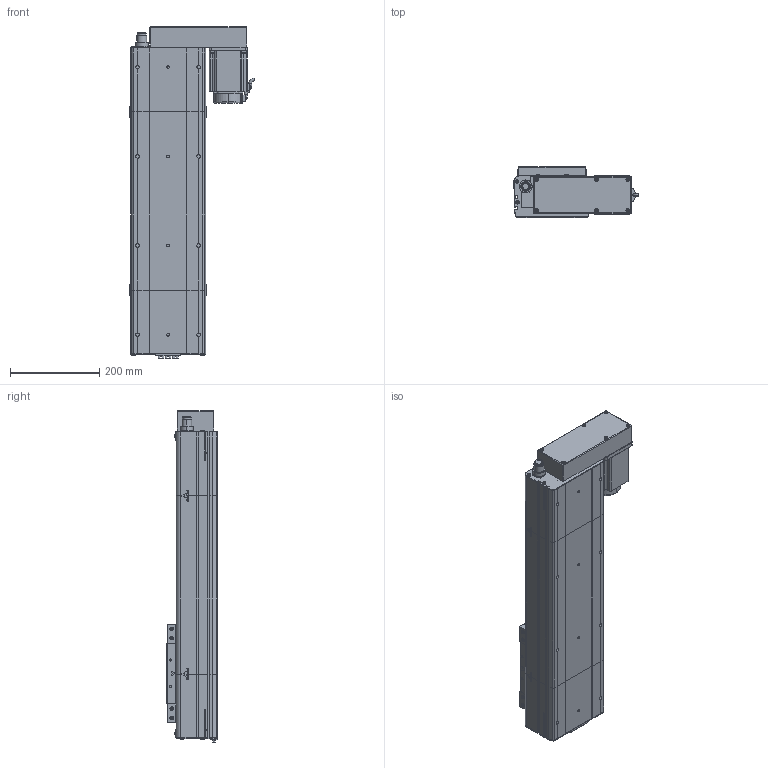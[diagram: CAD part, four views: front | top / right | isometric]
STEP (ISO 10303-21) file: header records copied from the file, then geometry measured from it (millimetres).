
FILE_DESCRIPTION (( 'STEP AP214' ), '1' );
FILE_NAME ('D17 CSH BL S400.STEP', '2010-06-29T13:53:45', ( 'Christophe Gaillard' ), ( 'SGA' ), 'SwSTEP 2.0', 'SolidWorks 2010', '' );
FILE_SCHEMA (( 'AUTOMOTIVE_DESIGN' ));
Length unit declared in the file: millimetre
Products named in the file (29): Moteur motionking 90BLDC100A-640; avant 90BLDC100A-640; codeur 90BLDC100-640; Conecteur_Default; Plaque de bout D17_Default; couvercle D17-400_Default; couvercle D17_Default; corps 90BLDC100A-640; ecrou_Default; Conecteur2_Default; Corp L400_Default; Corp D17 S400_Default; Corp Tail D17_Default; Tail D17_Default; support chariot D17_Default; chariot D17_Default; Chariot D17_Default; plaque de serrage D17_Default; glissiere_Default; vis M5 L15_Default; Support Moteur BL_Default; D17 CSH BL S400; couvercle D17 head BL_Default; Corp Head  D17 BL_Default; vis M5 L60_Default; vis M5 L47_Default; Plaque de bout D17 head BL_Default; Head D17 BL_Default; plaque de serrage D17 head BL_Default
Assembly tree (52 placements, depth 4):
  D17 CSH BL S400
    Corp D17 S400_Default
      couvercle D17-400_Default
      Corp L400_Default
    Head D17 BL_Default
      vis M5 L47_Default  x2
      vis M5 L15_Default  x4
      ecrou_Default  x4
      Support Moteur BL_Default
      plaque de serrage D17 head BL_Default
      Moteur motionking 90BLDC100A-640
        avant 90BLDC100A-640
        Conecteur2_Default
        corps 90BLDC100A-640
        Conecteur_Default
        codeur 90BLDC100-640
      couvercle D17 head BL_Default
      vis M5 L60_Default  x4
      Plaque de bout D17 head BL_Default
      Corp Head  D17 BL_Default
    Chariot D17_Default
      vis M5 L15_Default  x8
      support chariot D17_Default
      chariot D17_Default
      glissiere_Default
    Tail D17_Default
      vis M5 L15_Default  x6
      plaque de serrage D17_Default
      couvercle D17_Default
      Corp Tail D17_Default
      Plaque de bout D17_Default
Bounding box: 279.16 x 114 x 744.2 mm (x, y, z)
Volume: 6141270.3 mm3; surface area: 1123457.5 mm2
Topology: 89 solids, 89 shells, 3148 faces, 7918 edges, 5162 vertices
Faces by surface type: plane 1867, bspline 758, cylinder 404, torus 67, cone 48, sphere 4
Entity records: 147896 total; most frequent: CARTESIAN_POINT 80866, ORIENTED_EDGE 13376, DIRECTION 9634, EDGE_CURVE 6688, LINE 4542, VECTOR 4542, VERTEX_POINT 4430, EDGE_LOOP 2844
